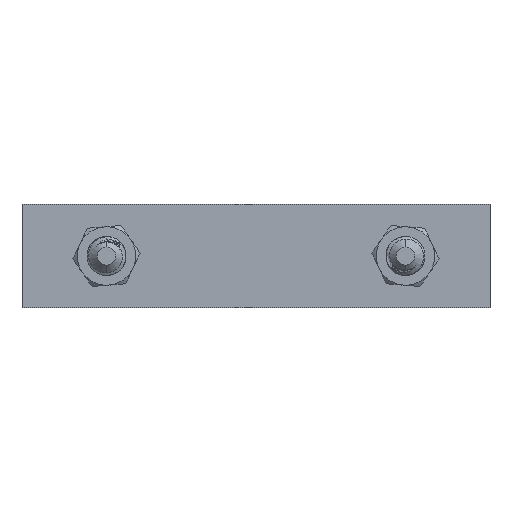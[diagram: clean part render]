
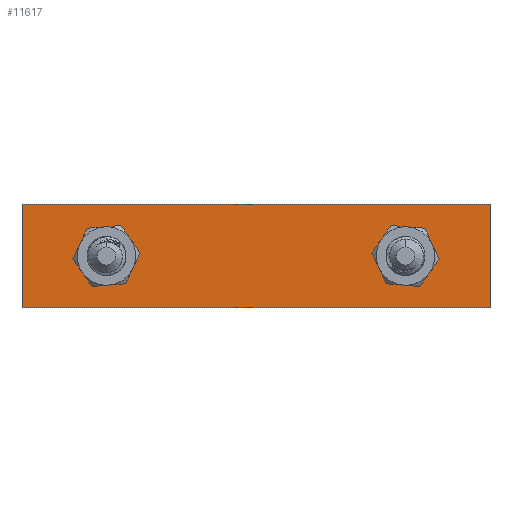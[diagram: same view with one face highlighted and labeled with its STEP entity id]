
A CAD part, front view. The second image highlights one B-rep face of the part: STEP entity #11617.
In plain terms, the highlighted planar face has unit normal (0, -1, 0).
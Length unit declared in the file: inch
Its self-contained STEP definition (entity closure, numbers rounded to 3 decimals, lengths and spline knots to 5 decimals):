
#80 = DIRECTION ( 'NONE',  ( 0., 0., -1. ) ) ;
#157 = ORIENTED_EDGE ( 'NONE', *, *, #6473, .T. ) ;
#177 = CARTESIAN_POINT ( 'NONE',  ( 3.6875, 0.05, 0.25 ) ) ;
#669 = ORIENTED_EDGE ( 'NONE', *, *, #4672, .T. ) ;
#919 = ORIENTED_EDGE ( 'NONE', *, *, #12591, .T. ) ;
#1183 = ORIENTED_EDGE ( 'NONE', *, *, #10263, .T. ) ;
#1208 = CARTESIAN_POINT ( 'NONE',  ( 4.5, 0.05, -0.49749 ) ) ;
#1305 = LINE ( 'NONE', #6725, #16093 ) ;
#2125 = AXIS2_PLACEMENT_3D ( 'NONE', #7164, #5493, #10922 ) ;
#2307 = VERTEX_POINT ( 'NONE', #5278 ) ;
#2339 = CARTESIAN_POINT ( 'NONE',  ( 4.5, 0.05, 0.49749 ) ) ;
#2348 = CARTESIAN_POINT ( 'NONE',  ( 4.5, 0.05, -0.49749 ) ) ;
#2709 = CARTESIAN_POINT ( 'NONE',  ( 0.8125, 0.05, -0.25 ) ) ;
#2838 = EDGE_CURVE ( 'Edge12', #9797, #2307, #4570, .T. ) ;
#3234 = FACE_BOUND ( 'NONE', #16394, .T. ) ;
#3581 = LINE ( 'NONE', #2348, #3801 ) ;
#3801 = VECTOR ( 'NONE', #14245, 39.37008 ) ;
#3936 = ORIENTED_EDGE ( 'NONE', *, *, #7684, .F. ) ;
#4336 = DIRECTION ( 'NONE',  ( -1., 0., 0. ) ) ;
#4487 = DIRECTION ( 'NONE',  ( 0., 1., 0. ) ) ;
#4570 = CIRCLE ( 'NONE', #6782, 0.25 ) ;
#4672 = EDGE_CURVE ( 'Edge7', #6198, #6835, #11011, .T. ) ;
#5278 = CARTESIAN_POINT ( 'NONE',  ( 0.8125, 0.05, 0.25 ) ) ;
#5473 = VERTEX_POINT ( 'NONE', #1208 ) ;
#5493 = DIRECTION ( 'NONE',  ( 0., 1., 0. ) ) ;
#5718 = LINE ( 'NONE', #10706, #5734 ) ;
#5734 = VECTOR ( 'NONE', #6871, 39.37008 ) ;
#6119 = CARTESIAN_POINT ( 'NONE',  ( 0., 0.05, 0. ) ) ;
#6198 = VERTEX_POINT ( 'NONE', #8173 ) ;
#6473 = EDGE_CURVE ( 'Edge12', #2307, #9797, #17143, .T. ) ;
#6725 = CARTESIAN_POINT ( 'NONE',  ( 0., 0.05, 0. ) ) ;
#6782 = AXIS2_PLACEMENT_3D ( 'NONE', #11818, #8857, #17053 ) ;
#6835 = VERTEX_POINT ( 'NONE', #177 ) ;
#6871 = DIRECTION ( 'NONE',  ( 0., 0., -1. ) ) ;
#7092 = FACE_OUTER_BOUND ( 'NONE', #15429, .T. ) ;
#7164 = CARTESIAN_POINT ( 'NONE',  ( 3.6875, 0.05, 0. ) ) ;
#7352 = DIRECTION ( 'NONE',  ( 0., -1., 0. ) ) ;
#7684 = EDGE_CURVE ( 'Edge10', #10577, #5473, #5718, .T. ) ;
#8173 = CARTESIAN_POINT ( 'NONE',  ( 3.6875, 0.05, -0.25 ) ) ;
#8395 = ORIENTED_EDGE ( 'NONE', *, *, #2838, .T. ) ;
#8400 = DIRECTION ( 'NONE',  ( 0., 0., -1. ) ) ;
#8519 = CARTESIAN_POINT ( 'NONE',  ( 0.8125, 0.05, 0. ) ) ;
#8551 = AXIS2_PLACEMENT_3D ( 'NONE', #6119, #7352, #8400 ) ;
#8857 = DIRECTION ( 'NONE',  ( 0., 1., 0. ) ) ;
#9317 = AXIS2_PLACEMENT_3D ( 'NONE', #10077, #4487, #9818 ) ;
#9797 = VERTEX_POINT ( 'NONE', #2709 ) ;
#9818 = DIRECTION ( 'NONE',  ( 0., 0., 1. ) ) ;
#10077 = CARTESIAN_POINT ( 'NONE',  ( 3.6875, 0.05, 0. ) ) ;
#10263 = EDGE_CURVE ( 'Edge7', #6835, #6198, #16083, .T. ) ;
#10577 = VERTEX_POINT ( 'NONE', #2339 ) ;
#10587 = VERTEX_POINT ( 'NONE', #11782 ) ;
#10706 = CARTESIAN_POINT ( 'NONE',  ( 4.5, 0.05, 0.875 ) ) ;
#10922 = DIRECTION ( 'NONE',  ( 0., 0., 1. ) ) ;
#11011 = CIRCLE ( 'NONE', #9317, 0.25 ) ;
#11068 = LINE ( 'NONE', #12462, #13853 ) ;
#11617 = ADVANCED_FACE ( 'Face6', ( #15216, #7092, #3234 ), #15467, .T. ) ;
#11782 = CARTESIAN_POINT ( 'NONE',  ( 0., 0.05, 0.49749 ) ) ;
#11818 = CARTESIAN_POINT ( 'NONE',  ( 0.8125, 0.05, 0. ) ) ;
#12462 = CARTESIAN_POINT ( 'NONE',  ( 4.5, 0.05, 0.49749 ) ) ;
#12591 = EDGE_CURVE ( 'NONE', #10577, #10587, #11068, .T. ) ;
#13853 = VECTOR ( 'NONE', #4336, 39.37008 ) ;
#14055 = ORIENTED_EDGE ( 'NONE', *, *, #14269, .T. ) ;
#14171 = DIRECTION ( 'NONE',  ( 0., 0., -1. ) ) ;
#14245 = DIRECTION ( 'NONE',  ( 1., 0., 0. ) ) ;
#14269 = EDGE_CURVE ( 'Edge13', #16983, #5473, #3581, .T. ) ;
#14377 = AXIS2_PLACEMENT_3D ( 'NONE', #8519, #15566, #14171 ) ;
#14391 = EDGE_CURVE ( 'Edge6', #10587, #16983, #1305, .T. ) ;
#14904 = ORIENTED_EDGE ( 'NONE', *, *, #14391, .T. ) ;
#15216 = FACE_BOUND ( 'NONE', #17222, .T. ) ;
#15357 = CARTESIAN_POINT ( 'NONE',  ( 0., 0.05, -0.49749 ) ) ;
#15429 = EDGE_LOOP ( 'NONE', ( #919, #14904, #14055, #3936 ) ) ;
#15467 = PLANE ( 'NONE',  #8551 ) ;
#15566 = DIRECTION ( 'NONE',  ( 0., 1., 0. ) ) ;
#16083 = CIRCLE ( 'NONE', #2125, 0.25 ) ;
#16093 = VECTOR ( 'NONE', #80, 39.37008 ) ;
#16394 = EDGE_LOOP ( 'NONE', ( #8395, #157 ) ) ;
#16983 = VERTEX_POINT ( 'NONE', #15357 ) ;
#17053 = DIRECTION ( 'NONE',  ( 0., 0., -1. ) ) ;
#17143 = CIRCLE ( 'NONE', #14377, 0.25 ) ;
#17222 = EDGE_LOOP ( 'NONE', ( #669, #1183 ) ) ;
